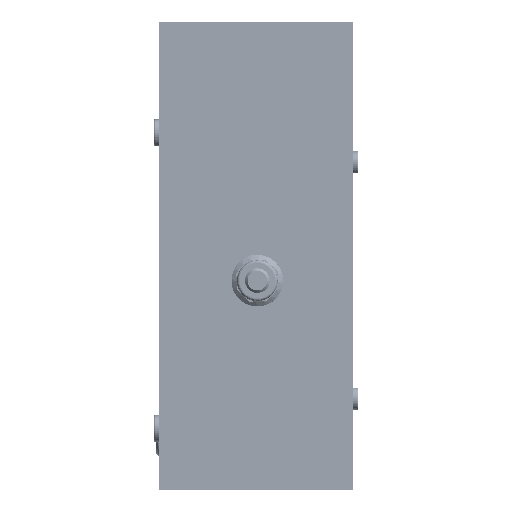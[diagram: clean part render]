
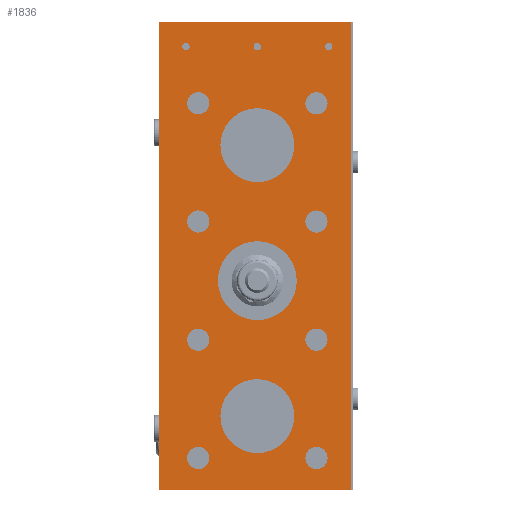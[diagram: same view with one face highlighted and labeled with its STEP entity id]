
A CAD part, left-side view. The second image highlights one B-rep face of the part: STEP entity #1836.
In plain terms, the highlighted planar face has unit normal (-1, 0, 0).
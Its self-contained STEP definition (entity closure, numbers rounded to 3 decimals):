
#1643=CARTESIAN_POINT('',(-144.0,1.,0.));
#1644=DIRECTION('',(-1.0,0.0,0.0));
#1645=DIRECTION('',(0.0,1.0,0.0));
#1646=AXIS2_PLACEMENT_3D('',#1643,#1644,#1645);
#1647=PLANE('',#1646);
#1648=CARTESIAN_POINT('',(-144.0,40.,95.));
#1649=VERTEX_POINT('',#1648);
#1650=CARTESIAN_POINT('',(-144.0,-38.,95.));
#1651=VERTEX_POINT('',#1650);
#1652=CARTESIAN_POINT('',(-144.0,40.,95.));
#1653=DIRECTION('',(0.0,-1.0,0.0));
#1654=VECTOR('',#1653,78.);
#1655=LINE('',#1652,#1654);
#1656=EDGE_CURVE('',#1649,#1651,#1655,.T.);
#1657=ORIENTED_EDGE('',*,*,#1656,.F.);
#1658=CARTESIAN_POINT('',(-144.0,40.,-95.0));
#1659=VERTEX_POINT('',#1658);
#1660=CARTESIAN_POINT('',(-144.0,40.,-95.0));
#1661=DIRECTION('',(0.0,0.0,1.0));
#1662=VECTOR('',#1661,190.);
#1663=LINE('',#1660,#1662);
#1664=EDGE_CURVE('',#1659,#1649,#1663,.T.);
#1665=ORIENTED_EDGE('',*,*,#1664,.F.);
#1666=CARTESIAN_POINT('',(-144.0,-38.,-95.));
#1667=VERTEX_POINT('',#1666);
#1668=CARTESIAN_POINT('',(-144.0,-38.,-95.));
#1669=DIRECTION('',(0.0,1.0,0.0));
#1670=VECTOR('',#1669,78.);
#1671=LINE('',#1668,#1670);
#1672=EDGE_CURVE('',#1667,#1659,#1671,.T.);
#1673=ORIENTED_EDGE('',*,*,#1672,.F.);
#1674=CARTESIAN_POINT('',(-144.0,-38.,95.));
#1675=DIRECTION('',(0.0,0.0,-1.0));
#1676=VECTOR('',#1675,190.0);
#1677=LINE('',#1674,#1676);
#1678=EDGE_CURVE('',#1651,#1667,#1677,.T.);
#1679=ORIENTED_EDGE('',*,*,#1678,.F.);
#1680=EDGE_LOOP('',(#1657,#1665,#1673,#1679));
#1681=FACE_OUTER_BOUND('',#1680,.T.);
#1682=CARTESIAN_POINT('',(-144.0,28.5,-82.0));
#1683=VERTEX_POINT('',#1682);
#1684=CARTESIAN_POINT('',(-144.0,24.,-82.0));
#1685=DIRECTION('',(1.0,0.0,0.0));
#1686=DIRECTION('',(0.0,1.0,0.0));
#1687=AXIS2_PLACEMENT_3D('',#1684,#1685,#1686);
#1688=CIRCLE('',#1687,4.5);
#1689=EDGE_CURVE('',#1683,#1683,#1688,.T.);
#1690=ORIENTED_EDGE('',*,*,#1689,.T.);
#1691=EDGE_LOOP('',(#1690));
#1692=FACE_BOUND('',#1691,.T.);
#1693=CARTESIAN_POINT('',(-144.0,-19.5,-34.0));
#1694=VERTEX_POINT('',#1693);
#1695=CARTESIAN_POINT('',(-144.0,-24.,-34.0));
#1696=DIRECTION('',(1.0,0.0,0.0));
#1697=DIRECTION('',(0.0,1.0,0.0));
#1698=AXIS2_PLACEMENT_3D('',#1695,#1696,#1697);
#1699=CIRCLE('',#1698,4.5);
#1700=EDGE_CURVE('',#1694,#1694,#1699,.T.);
#1701=ORIENTED_EDGE('',*,*,#1700,.T.);
#1702=EDGE_LOOP('',(#1701));
#1703=FACE_BOUND('',#1702,.T.);
#1704=CARTESIAN_POINT('',(-144.0,28.5,14.));
#1705=VERTEX_POINT('',#1704);
#1706=CARTESIAN_POINT('',(-144.0,24.,14.));
#1707=DIRECTION('',(1.0,0.0,0.0));
#1708=DIRECTION('',(0.0,1.0,0.0));
#1709=AXIS2_PLACEMENT_3D('',#1706,#1707,#1708);
#1710=CIRCLE('',#1709,4.5);
#1711=EDGE_CURVE('',#1705,#1705,#1710,.T.);
#1712=ORIENTED_EDGE('',*,*,#1711,.T.);
#1713=EDGE_LOOP('',(#1712));
#1714=FACE_BOUND('',#1713,.T.);
#1715=CARTESIAN_POINT('',(-144.0,-19.5,62.));
#1716=VERTEX_POINT('',#1715);
#1717=CARTESIAN_POINT('',(-144.0,-24.,62.));
#1718=DIRECTION('',(1.0,0.0,0.0));
#1719=DIRECTION('',(0.0,1.0,0.0));
#1720=AXIS2_PLACEMENT_3D('',#1717,#1718,#1719);
#1721=CIRCLE('',#1720,4.5);
#1722=EDGE_CURVE('',#1716,#1716,#1721,.T.);
#1723=ORIENTED_EDGE('',*,*,#1722,.T.);
#1724=EDGE_LOOP('',(#1723));
#1725=FACE_BOUND('',#1724,.T.);
#1726=CARTESIAN_POINT('',(-144.0,28.5,62.));
#1727=VERTEX_POINT('',#1726);
#1728=CARTESIAN_POINT('',(-144.0,24.,62.));
#1729=DIRECTION('',(1.0,0.0,0.0));
#1730=DIRECTION('',(0.0,1.0,0.0));
#1731=AXIS2_PLACEMENT_3D('',#1728,#1729,#1730);
#1732=CIRCLE('',#1731,4.5);
#1733=EDGE_CURVE('',#1727,#1727,#1732,.T.);
#1734=ORIENTED_EDGE('',*,*,#1733,.T.);
#1735=EDGE_LOOP('',(#1734));
#1736=FACE_BOUND('',#1735,.T.);
#1737=CARTESIAN_POINT('',(-144.0,-19.5,14.));
#1738=VERTEX_POINT('',#1737);
#1739=CARTESIAN_POINT('',(-144.0,-24.,14.));
#1740=DIRECTION('',(1.0,0.0,0.0));
#1741=DIRECTION('',(0.0,1.0,0.0));
#1742=AXIS2_PLACEMENT_3D('',#1739,#1740,#1741);
#1743=CIRCLE('',#1742,4.5);
#1744=EDGE_CURVE('',#1738,#1738,#1743,.T.);
#1745=ORIENTED_EDGE('',*,*,#1744,.T.);
#1746=EDGE_LOOP('',(#1745));
#1747=FACE_BOUND('',#1746,.T.);
#1748=CARTESIAN_POINT('',(-144.0,-19.5,-82.0));
#1749=VERTEX_POINT('',#1748);
#1750=CARTESIAN_POINT('',(-144.0,-24.,-82.0));
#1751=DIRECTION('',(1.0,0.0,0.0));
#1752=DIRECTION('',(0.0,1.0,0.0));
#1753=AXIS2_PLACEMENT_3D('',#1750,#1751,#1752);
#1754=CIRCLE('',#1753,4.5);
#1755=EDGE_CURVE('',#1749,#1749,#1754,.T.);
#1756=ORIENTED_EDGE('',*,*,#1755,.T.);
#1757=EDGE_LOOP('',(#1756));
#1758=FACE_BOUND('',#1757,.T.);
#1759=CARTESIAN_POINT('',(-144.0,28.5,-34.0));
#1760=VERTEX_POINT('',#1759);
#1761=CARTESIAN_POINT('',(-144.0,24.,-34.0));
#1762=DIRECTION('',(1.0,0.0,0.0));
#1763=DIRECTION('',(0.0,1.0,0.0));
#1764=AXIS2_PLACEMENT_3D('',#1761,#1762,#1763);
#1765=CIRCLE('',#1764,4.5);
#1766=EDGE_CURVE('',#1760,#1760,#1765,.T.);
#1767=ORIENTED_EDGE('',*,*,#1766,.T.);
#1768=EDGE_LOOP('',(#1767));
#1769=FACE_BOUND('',#1768,.T.);
#1770=CARTESIAN_POINT('',(-144.0,15.,45.));
#1771=VERTEX_POINT('',#1770);
#1772=CARTESIAN_POINT('',(-144.0,0.,45.));
#1773=DIRECTION('',(1.0,0.0,0.0));
#1774=DIRECTION('',(0.0,1.0,0.0));
#1775=AXIS2_PLACEMENT_3D('',#1772,#1773,#1774);
#1776=CIRCLE('',#1775,15.0);
#1777=EDGE_CURVE('',#1771,#1771,#1776,.T.);
#1778=ORIENTED_EDGE('',*,*,#1777,.T.);
#1779=EDGE_LOOP('',(#1778));
#1780=FACE_BOUND('',#1779,.T.);
#1781=CARTESIAN_POINT('',(-144.0,15.,-65.0));
#1782=VERTEX_POINT('',#1781);
#1783=CARTESIAN_POINT('',(-144.0,0.,-65.0));
#1784=DIRECTION('',(1.0,0.0,0.0));
#1785=DIRECTION('',(0.0,1.0,0.0));
#1786=AXIS2_PLACEMENT_3D('',#1783,#1784,#1785);
#1787=CIRCLE('',#1786,15.0);
#1788=EDGE_CURVE('',#1782,#1782,#1787,.T.);
#1789=ORIENTED_EDGE('',*,*,#1788,.T.);
#1790=EDGE_LOOP('',(#1789));
#1791=FACE_BOUND('',#1790,.T.);
#1792=CARTESIAN_POINT('',(-144.0,16.,-10.));
#1793=VERTEX_POINT('',#1792);
#1794=CARTESIAN_POINT('',(-144.0,0.,-10.));
#1795=DIRECTION('',(1.0,0.0,0.0));
#1796=DIRECTION('',(0.0,1.0,0.0));
#1797=AXIS2_PLACEMENT_3D('',#1794,#1795,#1796);
#1798=CIRCLE('',#1797,16.0);
#1799=EDGE_CURVE('',#1793,#1793,#1798,.T.);
#1800=ORIENTED_EDGE('',*,*,#1799,.T.);
#1801=EDGE_LOOP('',(#1800));
#1802=FACE_BOUND('',#1801,.T.);
#1803=CARTESIAN_POINT('',(-144.0,1.5,85.0));
#1804=VERTEX_POINT('',#1803);
#1805=CARTESIAN_POINT('',(-144.0,0.,85.0));
#1806=DIRECTION('',(1.0,0.0,0.0));
#1807=DIRECTION('',(0.0,-1.0,0.0));
#1808=AXIS2_PLACEMENT_3D('',#1805,#1806,#1807);
#1809=CIRCLE('',#1808,1.5);
#1810=EDGE_CURVE('',#1804,#1804,#1809,.T.);
#1811=ORIENTED_EDGE('',*,*,#1810,.T.);
#1812=EDGE_LOOP('',(#1811));
#1813=FACE_BOUND('',#1812,.T.);
#1814=CARTESIAN_POINT('',(-144.0,30.5,85.0));
#1815=VERTEX_POINT('',#1814);
#1816=CARTESIAN_POINT('',(-144.0,29.,85.0));
#1817=DIRECTION('',(1.0,0.0,0.0));
#1818=DIRECTION('',(0.0,-1.0,0.0));
#1819=AXIS2_PLACEMENT_3D('',#1816,#1817,#1818);
#1820=CIRCLE('',#1819,1.5);
#1821=EDGE_CURVE('',#1815,#1815,#1820,.T.);
#1822=ORIENTED_EDGE('',*,*,#1821,.T.);
#1823=EDGE_LOOP('',(#1822));
#1824=FACE_BOUND('',#1823,.T.);
#1825=CARTESIAN_POINT('',(-144.0,-27.5,85.0));
#1826=VERTEX_POINT('',#1825);
#1827=CARTESIAN_POINT('',(-144.0,-29.,85.0));
#1828=DIRECTION('',(1.0,0.0,0.0));
#1829=DIRECTION('',(0.0,-1.0,0.0));
#1830=AXIS2_PLACEMENT_3D('',#1827,#1828,#1829);
#1831=CIRCLE('',#1830,1.5);
#1832=EDGE_CURVE('',#1826,#1826,#1831,.T.);
#1833=ORIENTED_EDGE('',*,*,#1832,.T.);
#1834=EDGE_LOOP('',(#1833));
#1835=FACE_BOUND('',#1834,.T.);
#1836=ADVANCED_FACE('',(#1681,#1692,#1703,#1714,#1725,#1736,#1747,#1758,#1769,#1780,#1791,#1802,#1813,#1824,#1835),#1647,.T.);
